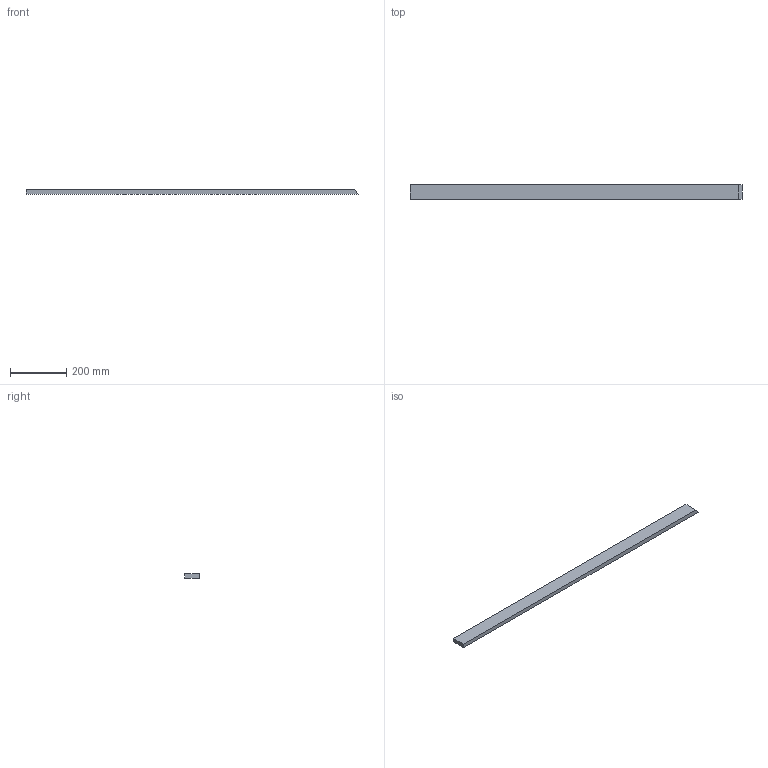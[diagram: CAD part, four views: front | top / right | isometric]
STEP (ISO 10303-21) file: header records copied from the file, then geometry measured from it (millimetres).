
FILE_DESCRIPTION(/* description */ (''),/* implementation_level */ '2;1');
FILE_NAME(/* name */ 'Pos105-Plaatwerk D= 15-S235JRG2-1st',/* time_stamp */ '2024-08-06T13:49:48+02:00',/* author */ (''),/* organization */ (''),/* preprocessor_version */ 'ST-DEVELOPER v16.5',/* originating_system */ 'HiCAD 2024 2901.2 Build 361',/* authorisation */ '');
FILE_SCHEMA (('AUTOMOTIVE_DESIGN { 1 0 10303 214 1 1 1 1 }'));
Length unit declared in the file: millimetre
Products named in the file (1): Pos105-Plaatwerk D= 15-S235JRG2-1st
Bounding box: 1180.02 x 50 x 15 mm (x, y, z)
Volume: 880461 mm3; surface area: 154328.3 mm2
Topology: 1 solids, 1 shells, 6 faces, 12 edges, 8 vertices
Faces by surface type: plane 6
Entity records: 294 total; most frequent: CARTESIAN_POINT 26, PRESENTATION_STYLE_ASSIGNMENT 25, COLOUR_RGB 25, DRAUGHTING_PRE_DEFINED_CURVE_FONT 24, CURVE_STYLE 24, OVER_RIDING_STYLED_ITEM 24, ORIENTED_EDGE 24, DIRECTION 24
